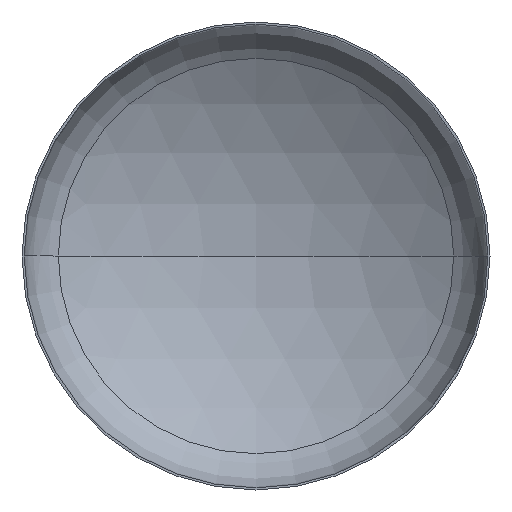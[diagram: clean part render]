
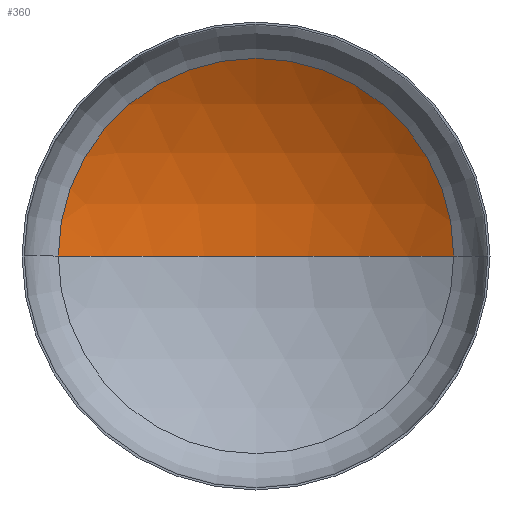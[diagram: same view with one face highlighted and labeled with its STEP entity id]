
A CAD part, front view. The second image highlights one B-rep face of the part: STEP entity #360.
In plain terms, the highlighted spherical face has radius 2720 mm.
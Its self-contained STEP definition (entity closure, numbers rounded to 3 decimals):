
#5 = ORIENTED_EDGE ( 'NONE', *, *, #134, .T. ) ;
#12 = VERTEX_POINT ( 'NONE', #250 ) ;
#19 = VERTEX_POINT ( 'NONE', #251 ) ;
#37 = DIRECTION ( 'NONE',  ( 1., 0., 0. ) ) ;
#40 = AXIS2_PLACEMENT_3D ( 'NONE', #381, #399, #37 ) ;
#44 = ORIENTED_EDGE ( 'NONE', *, *, #138, .T. ) ;
#47 = AXIS2_PLACEMENT_3D ( 'NONE', #288, #285, #284 ) ;
#50 = AXIS2_PLACEMENT_3D ( 'NONE', #293, #300, #297 ) ;
#75 = VERTEX_POINT ( 'NONE', #215 ) ;
#106 = EDGE_LOOP ( 'NONE', ( #233, #44, #5 ) ) ;
#134 = EDGE_CURVE ( 'NONE', #19, #12, #146, .T. ) ;
#138 = EDGE_CURVE ( 'NONE', #75, #19, #392, .T. ) ;
#139 = EDGE_CURVE ( 'NONE', #75, #12, #265, .T. ) ;
#144 = AXIS2_PLACEMENT_3D ( 'NONE', #333, #165, #264 ) ;
#146 = CIRCLE ( 'NONE', #50, 1436.21 ) ;
#165 = DIRECTION ( 'NONE',  ( 0., 0., -1. ) ) ;
#215 = CARTESIAN_POINT ( 'NONE',  ( 0., 910.933, 0. ) ) ;
#220 = FACE_OUTER_BOUND ( 'NONE', #106, .T. ) ;
#233 = ORIENTED_EDGE ( 'NONE', *, *, #139, .F. ) ;
#250 = CARTESIAN_POINT ( 'NONE',  ( -1436.21, 500.847, 0. ) ) ;
#251 = CARTESIAN_POINT ( 'NONE',  ( 1436.21, 500.847, 0. ) ) ;
#264 = DIRECTION ( 'NONE',  ( -1., 0., 0. ) ) ;
#265 = CIRCLE ( 'NONE', #40, 2720. ) ;
#284 = DIRECTION ( 'NONE',  ( -1., 0., 0. ) ) ;
#285 = DIRECTION ( 'NONE',  ( 0., 0., -1. ) ) ;
#288 = CARTESIAN_POINT ( 'NONE',  ( 0., -1809.067, 0. ) ) ;
#293 = CARTESIAN_POINT ( 'NONE',  ( 0., 500.847, 0. ) ) ;
#297 = DIRECTION ( 'NONE',  ( 1., 0., 0. ) ) ;
#300 = DIRECTION ( 'NONE',  ( 0., -1., 0. ) ) ;
#333 = CARTESIAN_POINT ( 'NONE',  ( 0., -1809.067, 0. ) ) ;
#360 = ADVANCED_FACE ( 'NONE', ( #220 ), #406, .F. ) ;
#381 = CARTESIAN_POINT ( 'NONE',  ( 0., -1809.067, 0. ) ) ;
#392 = CIRCLE ( 'NONE', #47, 2720. ) ;
#399 = DIRECTION ( 'NONE',  ( 0., 0., 1. ) ) ;
#406 = SPHERICAL_SURFACE ( 'NONE', #144, 2720. ) ;
